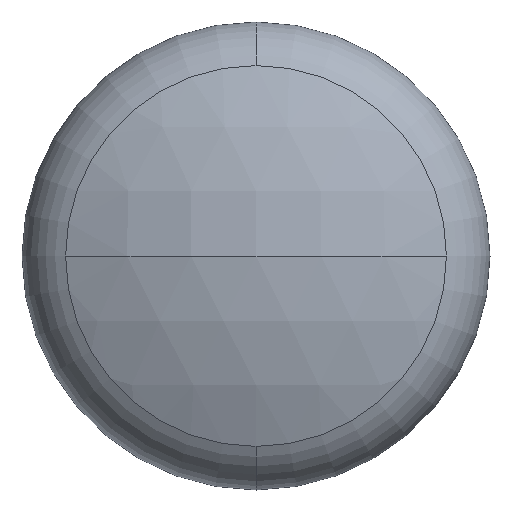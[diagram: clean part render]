
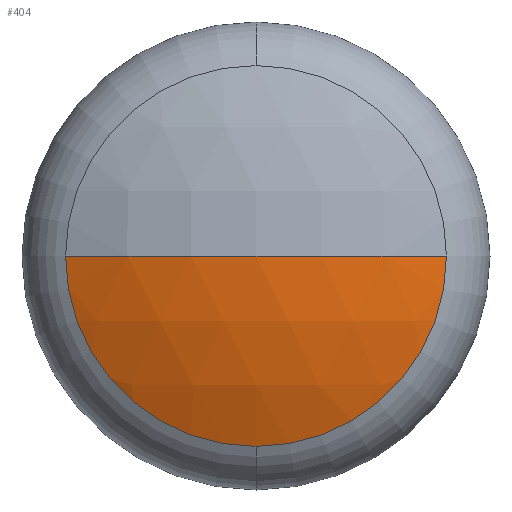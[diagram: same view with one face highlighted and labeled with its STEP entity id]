
A CAD part, front view. The second image highlights one B-rep face of the part: STEP entity #404.
In plain terms, the highlighted spherical face has radius 76.2 mm.
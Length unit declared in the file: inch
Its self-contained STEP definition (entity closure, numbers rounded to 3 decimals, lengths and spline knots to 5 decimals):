
#1 = FACE_OUTER_BOUND ( 'NONE', #228, .T. ) ;
#10 = EDGE_CURVE ( 'NONE', #178, #236, #421, .T. ) ;
#13 = VERTEX_POINT ( 'NONE', #142 ) ;
#22 = CIRCLE ( 'NONE', #280, 3. ) ;
#44 = CARTESIAN_POINT ( 'NONE',  ( 0., 1.75, 0. ) ) ;
#58 = CIRCLE ( 'NONE', #61, 3. ) ;
#61 = AXIS2_PLACEMENT_3D ( 'NONE', #107, #368, #295 ) ;
#70 = DIRECTION ( 'NONE',  ( 0., 0., -1. ) ) ;
#98 = AXIS2_PLACEMENT_3D ( 'NONE', #170, #396, #110 ) ;
#107 = CARTESIAN_POINT ( 'NONE',  ( 0., 1.75, 0. ) ) ;
#110 = DIRECTION ( 'NONE',  ( 0., 0., -1. ) ) ;
#116 = ORIENTED_EDGE ( 'NONE', *, *, #334, .T. ) ;
#134 = DIRECTION ( 'NONE',  ( 0., -1., 0. ) ) ;
#142 = CARTESIAN_POINT ( 'NONE',  ( 0., -1.25, 0. ) ) ;
#161 = CARTESIAN_POINT ( 'NONE',  ( -1.22064, -0.99044, 0. ) ) ;
#169 = CARTESIAN_POINT ( 'NONE',  ( 0., -0.99044, 0. ) ) ;
#170 = CARTESIAN_POINT ( 'NONE',  ( 0., -0.99044, 0. ) ) ;
#176 = CARTESIAN_POINT ( 'NONE',  ( 0., 1.75, 0. ) ) ;
#178 = VERTEX_POINT ( 'NONE', #161 ) ;
#214 = DIRECTION ( 'NONE',  ( 0., 0., -1. ) ) ;
#228 = EDGE_LOOP ( 'NONE', ( #406, #116, #372, #233 ) ) ;
#233 = ORIENTED_EDGE ( 'NONE', *, *, #10, .T. ) ;
#236 = VERTEX_POINT ( 'NONE', #279 ) ;
#247 = DIRECTION ( 'NONE',  ( -1., 0., 0. ) ) ;
#254 = VERTEX_POINT ( 'NONE', #355 ) ;
#255 = AXIS2_PLACEMENT_3D ( 'NONE', #176, #70, #247 ) ;
#264 = DIRECTION ( 'NONE',  ( -1., 0., 0. ) ) ;
#279 = CARTESIAN_POINT ( 'NONE',  ( 0., -0.99044, -1.22064 ) ) ;
#280 = AXIS2_PLACEMENT_3D ( 'NONE', #44, #290, #264 ) ;
#282 = CIRCLE ( 'NONE', #98, 1.22064 ) ;
#290 = DIRECTION ( 'NONE',  ( 0., 0., -1. ) ) ;
#295 = DIRECTION ( 'NONE',  ( 1., 0., 0. ) ) ;
#334 = EDGE_CURVE ( 'NONE', #254, #13, #22, .T. ) ;
#338 = SPHERICAL_SURFACE ( 'NONE', #255, 3. ) ;
#353 = EDGE_CURVE ( 'NONE', #236, #254, #282, .T. ) ;
#355 = CARTESIAN_POINT ( 'NONE',  ( 1.22064, -0.99044, 0. ) ) ;
#368 = DIRECTION ( 'NONE',  ( 0., 0., 1. ) ) ;
#372 = ORIENTED_EDGE ( 'NONE', *, *, #376, .F. ) ;
#376 = EDGE_CURVE ( 'NONE', #178, #13, #58, .T. ) ;
#387 = AXIS2_PLACEMENT_3D ( 'NONE', #169, #134, #214 ) ;
#396 = DIRECTION ( 'NONE',  ( 0., -1., 0. ) ) ;
#404 = ADVANCED_FACE ( 'NONE', ( #1 ), #338, .T. ) ;
#406 = ORIENTED_EDGE ( 'NONE', *, *, #353, .T. ) ;
#421 = CIRCLE ( 'NONE', #387, 1.22064 ) ;
